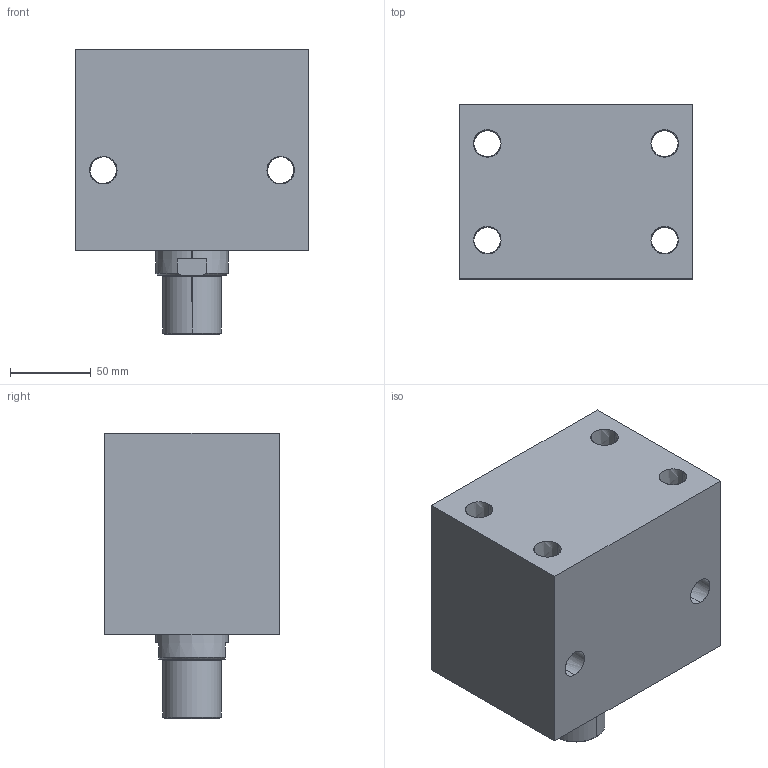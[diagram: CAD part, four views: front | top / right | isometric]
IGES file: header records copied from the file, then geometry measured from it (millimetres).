
Start section: SolidWorks IGES file using analytic representation for surfaces
Global section: file name: D:\karuppas\Clasp\3D model\Block cylinder B01C-Male thread - Copy\B01C-750M\Block cylinder B01C-750M.IGS; native system: SolidWorks 2017; preprocessor: SolidWorks 2017; author: pc; date: 220709.234710; units: millimetre
Bounding box: 145 x 108 x 177 mm (x, y, z)
Surface area: 160085.8 mm2 (no closed solid volume)
Topology: 0 solids, 0 shells, 351 faces, 5374 edges, 5370 vertices
Faces by surface type: bspline 297, revolution 54
